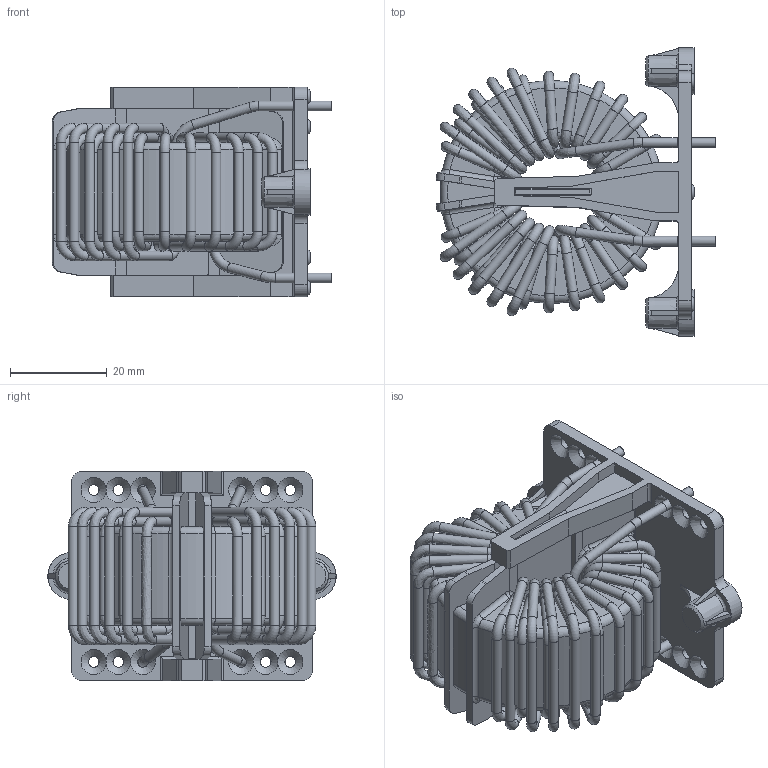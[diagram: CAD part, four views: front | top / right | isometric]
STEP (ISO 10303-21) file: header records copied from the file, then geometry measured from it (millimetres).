
FILE_DESCRIPTION((''),'2;1');
FILE_NAME('K:\Development\Projects\RB\Angel_standard choke series 2011\70_Realization_Revision\702_MechanicalDesign\Drawing for Harald\RB8522-16-3M0.stp','2012-10-26T09:03:32',('Fiona.chen'),(''),'Autodesk Inventor 2010','Autodesk Inventor 2010','');
FILE_SCHEMA(('AUTOMOTIVE_DESIGN { 1 0 10303 214 1 1 1 1 }'));
Length unit declared in the file: millimetre
Products named in the file (1): 零件19
Bounding box: 57.8 x 59.58 x 43.4 mm (x, y, z)
Volume: 43975.8 mm3; surface area: 33063.6 mm2
Topology: 1 solids, 1 shells, 1093 faces, 3078 edges, 1882 vertices
Faces by surface type: plane 422, bspline 239, cylinder 226, torus 168, cone 38
Full cylindrical faces by diameter (mm): 2 x61, 2.2 x12, 3 x6, 9.6 x2
Entity records: 44119 total; most frequent: CARTESIAN_POINT 17879, ORIENTED_EDGE 5496, DIRECTION 4661, EDGE_CURVE 2748, VERTEX_POINT 1781, AXIS2_PLACEMENT_3D 1688, EDGE_LOOP 1349, VECTOR 1285
